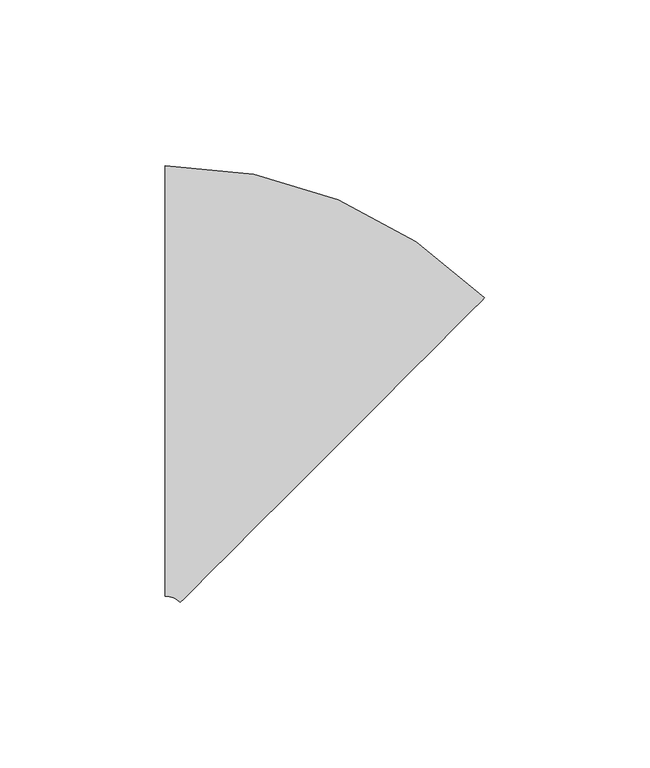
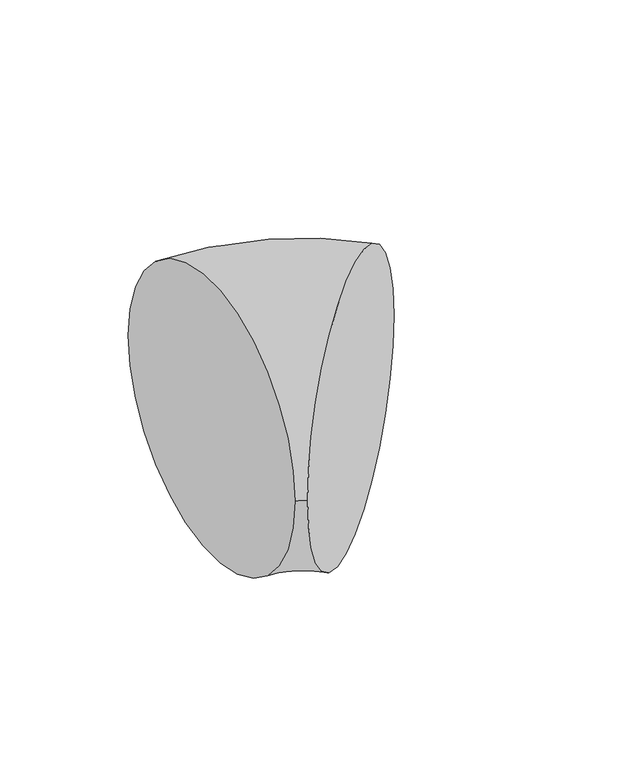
"""IFC4 building model written with IfcOpenShell, lengths in millimetres: pipe fitting geometry, M_Codo - Genérico : Estándar."""

from ifc_helpers import new_model, si_unit, point, frame, origin, place, context, project, spatial, circle_curve, ellipse_curve, trimmed, source, transform, mapped, element, save
from ifc_brep_helpers import plane_surface, revolved_surface, advanced_brep


def pipe_fitting_911ec8aa(model_context):
    return source(origin(), model_context, "Body", "AdvancedBrep", [
        advanced_brep(
        [(-29.5886481, 65.0875, 0.0), (-29.5886481, -65.0875, 0.0), (66.9451067, 25.1042516, 0.0), (-25.0987061, -66.947186, 0.0)],
        [
            (0, 1, circle_curve(frame((-29.5886481, 0.0, 0.0), z_axis=(-1.0, 0.0, 0.0), x_axis=(0.0, -1.0, 0.0)), 65.0875)),
            (1, 0, circle_curve(frame((-29.5886481, 0.0, 0.0), z_axis=(-1.0, 0.0, 0.0), x_axis=(0.0, -1.0, 0.0)), 65.0875)),
            (2, 3, circle_curve(frame((20.9232003, -20.9214672, 0.0), z_axis=(0.7071360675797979, -0.7070774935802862, 0.0), x_axis=(-0.7070774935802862, -0.7071360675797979, 0.0)), 65.0875)),
            (3, 2, circle_curve(frame((20.9232003, -20.9214672, 0.0), z_axis=(0.7071360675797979, -0.7070774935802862, 0.0), x_axis=(-0.7070774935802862, -0.7071360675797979, 0.0)), 65.0875)),
            (2, 0, circle_curve(frame((-29.5886481, -71.4375, 0.0), z_axis=(0.0, 0.0, 1.0), x_axis=(0.0, 1.0, 0.0)), 136.525)),
            (1, 3, circle_curve(frame((-29.5886481, -71.4375, 0.0), z_axis=(0.0, 0.0, -1.0), x_axis=(0.0, 1.0, 0.0)), 6.35)),
        ],
        [
            plane_surface(frame((-29.5886481, 0.0, 0.0), z_axis=(-1.0, 0.0, 0.0), x_axis=(0.0, 0.0, 1.0))),
            plane_surface(frame((20.9232003, -20.9214672, 0.0), z_axis=(0.707136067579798, -0.7070774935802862, 0.0), x_axis=(0.0, 0.0, 1.0))),
            revolved_surface(trimmed(ellipse_curve(frame((-29.5886481, 0.0, 0.0), z_axis=(1.0, 0.0, 0.0), x_axis=(0.0, -1.0, 0.0)), 65.0875, 65.0875), [point((-29.5886481, 65.0875, 0.0))], [point((-29.5886481, -65.0875, 0.0))], True, "CARTESIAN"), (-29.5886481, -71.4375, 0.0), (0.0, 0.0, 1.0)),
            revolved_surface(trimmed(ellipse_curve(frame((-29.5886481, 0.0, 0.0), z_axis=(1.0, 0.0, 0.0), x_axis=(0.0, -1.0, 0.0)), 65.0875, 65.0875), [point((-29.5886481, -65.0875, 0.0))], [point((-29.5886481, 65.0875, 0.0))], True, "CARTESIAN"), (-29.5886481, -71.4375, 0.0), (0.0, 0.0, 1.0)),
        ],
        [
            (0, [[1, 2]]),
            (1, [[3, 4]]),
            (2, [[-3, 5, -2, 6]]),
            (3, [[-4, -6, -1, -5]]),
        ],
    ),
    ])


if __name__ == "__main__":
    model = new_model("IFC4")
    model_context = context("Model", 3, world=origin())
    ifc_project = project(units=[si_unit("LENGTHUNIT", "METRE", prefix="MILLI")], contexts=[model_context])
    site = spatial("IfcSite", under=ifc_project)
    building = spatial("IfcBuilding", under=site)
    placement = place(None, origin())
    pipe_fitting_shape = pipe_fitting_911ec8aa(model_context)
    element("IfcPipeFitting", 1, ObjectType="M_Codo - Genérico : Estándar", at=placement, inside=building, context=model_context, shape_type="MappedRepresentation", body=[
        mapped(pipe_fitting_shape, transform((0.0, 0.0, 0.0), x_axis=(1.0, 0.0, 0.0), y_axis=(0.0, 1.0, 0.0), z_axis=(0.0, 0.0, 1.0))),
    ])
    save(model, "model.ifc")
